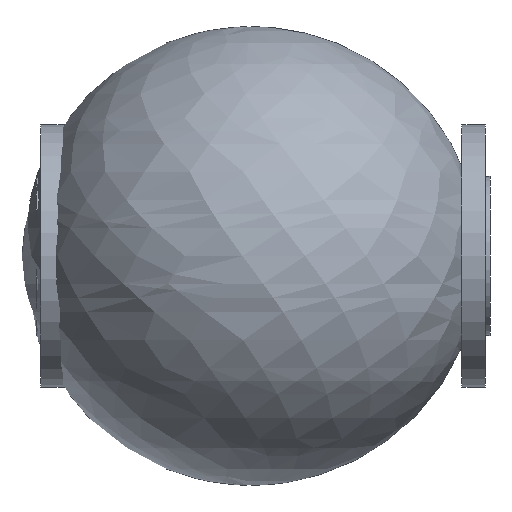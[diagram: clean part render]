
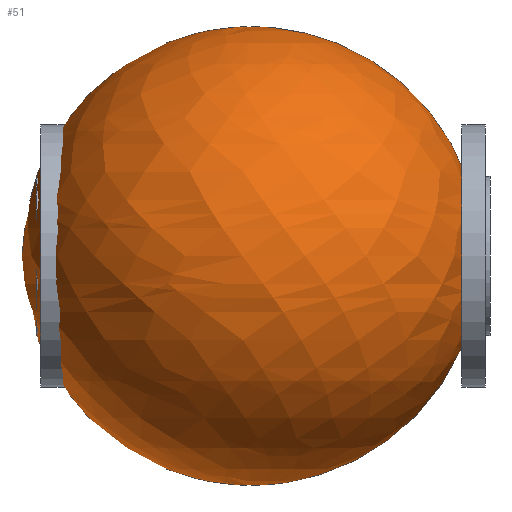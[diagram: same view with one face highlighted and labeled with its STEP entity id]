
A CAD part, front view. The second image highlights one B-rep face of the part: STEP entity #51.
In plain terms, the highlighted free-form (B-spline) face has degree [2, 2] with [7, 5] control points.
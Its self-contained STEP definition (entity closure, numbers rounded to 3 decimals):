
#51 = ADVANCED_FACE('',(#52),#56,.T.);
#52 = FACE_BOUND('',#53,.T.);
#53 = VERTEX_LOOP('',#54);
#54 = VERTEX_POINT('',#55);
#55 = CARTESIAN_POINT('',(0.,0.,-49.));
#56 = ( BOUNDED_SURFACE() B_SPLINE_SURFACE(2,2,(
    (#57,#58,#59,#60,#61)
    ,(#62,#63,#64,#65,#66)
    ,(#67,#68,#69,#70,#71)
    ,(#72,#73,#74,#75,#76)
    ,(#77,#78,#79,#80,#81)
    ,(#82,#83,#84,#85,#86)
    ,(#87,#88,#89,#90,#91
)),.UNSPECIFIED.,.T.,.F.,.F.) B_SPLINE_SURFACE_WITH_KNOTS((1,2,2,2,2,1),
  (3,2,3),(-2.094,0.,2.094,4.189,
    6.283,8.378),(-1.571,0.,1.571),
.UNSPECIFIED.) GEOMETRIC_REPRESENTATION_ITEM() RATIONAL_B_SPLINE_SURFACE
((
    (1.,0.707,1.,0.707,1.)
    ,(0.5,0.354,0.5,0.354,0.5)
    ,(1.,0.707,1.,0.707,1.)
    ,(0.5,0.354,0.5,0.354,0.5)
    ,(1.,0.707,1.,0.707,1.)
    ,(0.5,0.354,0.5,0.354,0.5)
,(1.,0.707,1.,0.707,1.
))) REPRESENTATION_ITEM('') SURFACE() );
#57 = CARTESIAN_POINT('',(0.,0.,-49.));
#58 = CARTESIAN_POINT('',(49.,0.,-49.));
#59 = CARTESIAN_POINT('',(49.,0.,0.));
#60 = CARTESIAN_POINT('',(49.,0.,49.));
#61 = CARTESIAN_POINT('',(0.,0.,49.));
#62 = CARTESIAN_POINT('',(0.,0.,-49.));
#63 = CARTESIAN_POINT('',(49.,93.531,-49.));
#64 = CARTESIAN_POINT('',(49.,93.531,0.));
#65 = CARTESIAN_POINT('',(49.,93.531,49.));
#66 = CARTESIAN_POINT('',(0.,0.,49.));
#67 = CARTESIAN_POINT('',(0.,0.,-49.));
#68 = CARTESIAN_POINT('',(-24.5,46.765,-49.));
#69 = CARTESIAN_POINT('',(-24.5,46.765,0.));
#70 = CARTESIAN_POINT('',(-24.5,46.765,49.));
#71 = CARTESIAN_POINT('',(0.,0.,49.));
#72 = CARTESIAN_POINT('',(0.,0.,-49.));
#73 = CARTESIAN_POINT('',(-98.,0.,-49.));
#74 = CARTESIAN_POINT('',(-98.,0.,0.));
#75 = CARTESIAN_POINT('',(-98.,0.,49.));
#76 = CARTESIAN_POINT('',(0.,0.,49.));
#77 = CARTESIAN_POINT('',(0.,0.,-49.));
#78 = CARTESIAN_POINT('',(-24.5,-46.765,-49.));
#79 = CARTESIAN_POINT('',(-24.5,-46.765,0.));
#80 = CARTESIAN_POINT('',(-24.5,-46.765,49.));
#81 = CARTESIAN_POINT('',(0.,0.,49.));
#82 = CARTESIAN_POINT('',(0.,0.,-49.));
#83 = CARTESIAN_POINT('',(49.,-93.531,-49.));
#84 = CARTESIAN_POINT('',(49.,-93.531,0.));
#85 = CARTESIAN_POINT('',(49.,-93.531,49.));
#86 = CARTESIAN_POINT('',(0.,0.,49.));
#87 = CARTESIAN_POINT('',(0.,0.,-49.));
#88 = CARTESIAN_POINT('',(49.,0.,-49.));
#89 = CARTESIAN_POINT('',(49.,0.,0.));
#90 = CARTESIAN_POINT('',(49.,0.,49.));
#91 = CARTESIAN_POINT('',(0.,0.,49.));
